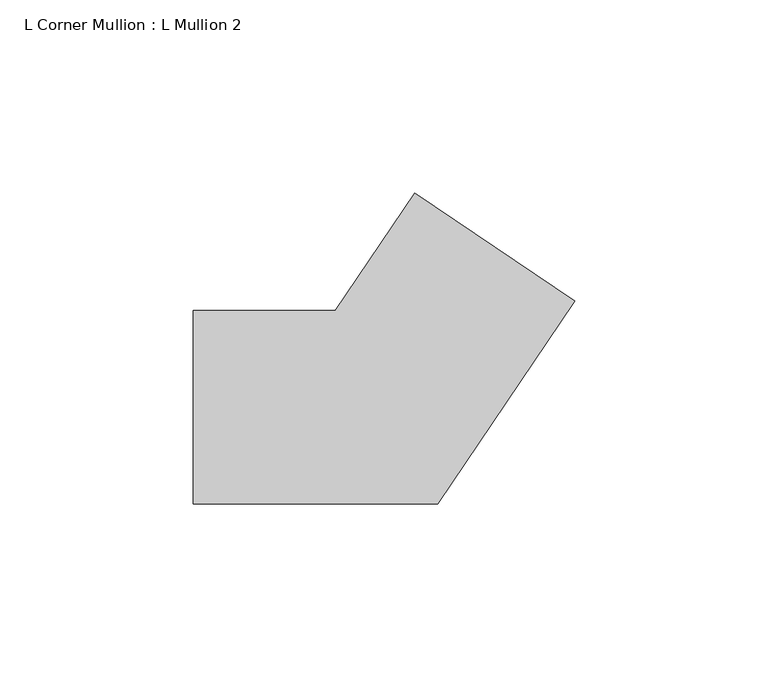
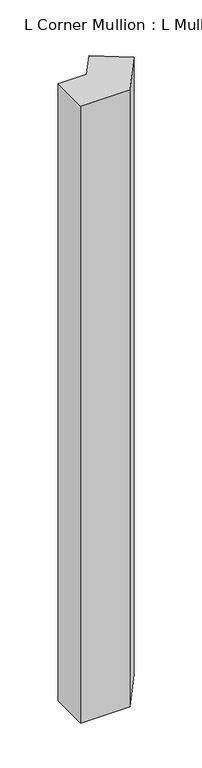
"""IFC4 building model written with IfcOpenShell, lengths in millimetres: member geometry, L Corner Mullion : L Mullion 2."""

from ifc_helpers import new_model, si_unit, frame, origin, place, context, project, spatial, polyline, outline, extrude, source, transform, mapped, element, save


def l_corner_mullion_l_mullion_2_6b06ecfa(model_context):
    return source(origin(), model_context, "Body", "SweptSolid", [
        extrude(outline(polyline([(48.6855845, 27.472056), (13.2927358, -25.0), (-50.0, -25.0), (-50.0, 25.0), (-13.2927358, 25.0), (7.2337059, 55.4317012), (48.6855845, 27.472056)])), frame((0.0, 0.0, -840.0), z_axis=(0.0, 0.0, 1.0), x_axis=(1.0, 0.0, 0.0)), (0.0, 0.0, 1.0), 840.0),
    ])


if __name__ == "__main__":
    model = new_model("IFC4")
    model_context = context("Model", 3, world=origin())
    ifc_project = project(units=[si_unit("LENGTHUNIT", "METRE", prefix="MILLI")], contexts=[model_context])
    site = spatial("IfcSite", under=ifc_project)
    building = spatial("IfcBuilding", under=site)
    placement = place(None, origin())
    l_corner_mullion_l_mullion_2_shape = l_corner_mullion_l_mullion_2_6b06ecfa(model_context)
    element("IfcMember", 1, ObjectType="L Corner Mullion : L Mullion 2", at=placement, inside=building, context=model_context, shape_type="MappedRepresentation", body=[
        mapped(l_corner_mullion_l_mullion_2_shape, transform((0.0, 0.0, 0.0), x_axis=(1.0, 0.0, 0.0), y_axis=(0.0, 1.0, 0.0), z_axis=(0.0, 0.0, 1.0))),
    ])
    save(model, "model.ifc")
